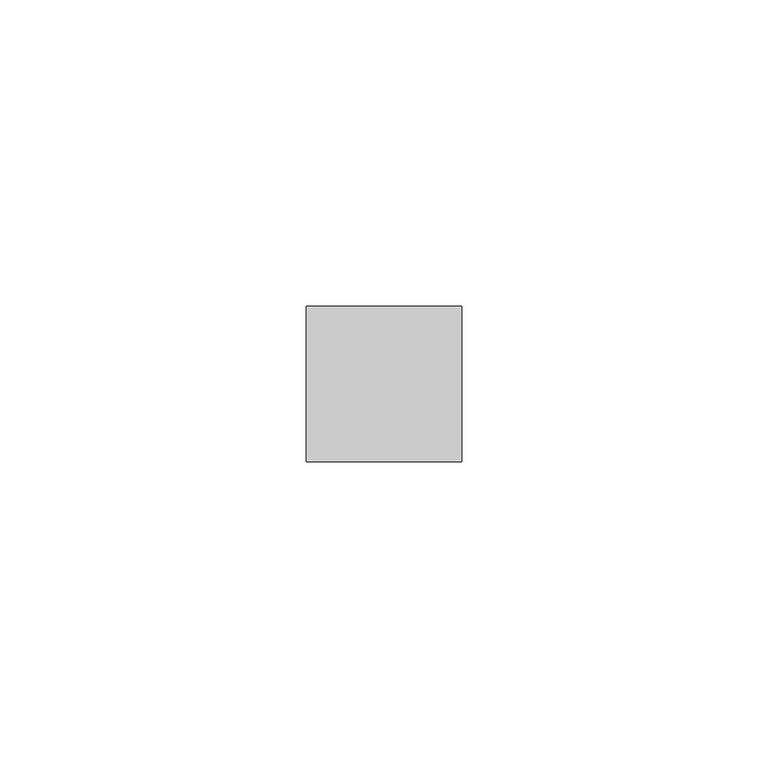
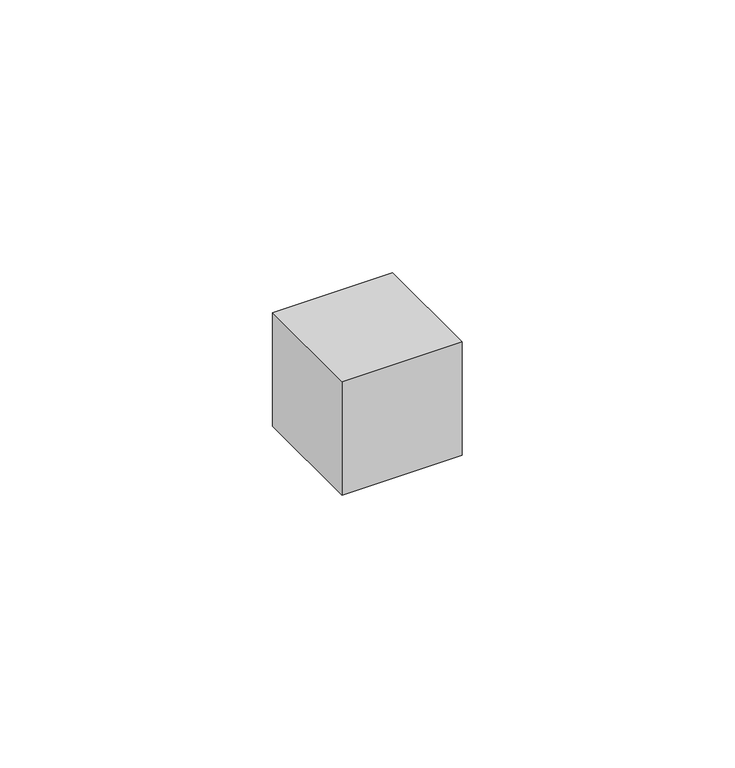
"""IFC4 building model written with IfcOpenShell, lengths in millimetres: proxy geometry, INDDoNotDelete : INDMetadata."""

import ifcopenshell
import ifcopenshell.guid

model = None  # the IFC model being written
_history = None  # IfcOwnerHistory: only IFC2X3 demands one
_inside = {}  # id of a spatial element -> (the spatial element, [elements in it])
_under = {}  # id of a project, library or spatial element -> (it, [spatial elements below it])
_declared = {}  # id of a project -> (the project, [libraries it declares])
_typed = {}  # id of a type object -> (the type object, [elements of that type])
_made_of = {}  # id of a material, layer set ... -> (it, [elements and type objects made of it])


def new_model(schema):
    """Start an empty IFC model of exactly this schema.

    Asked for "IFC4X3", IfcOpenShell would pick the latest addendum, in which some entities
    have other attributes; the version numbers below select the first issue.
    IFC2X3 requires an IfcOwnerHistory on every rooted entity: one is made here for all.
    """
    global model, _history
    if schema == "IFC4X3":
        model = ifcopenshell.file(schema_version=(4, 3, 0, 0))
    else:
        model = ifcopenshell.file(schema=schema)
    _inside.clear()
    _under.clear()
    _declared.clear()
    _typed.clear()
    _made_of.clear()
    _history = None
    if model.schema == "IFC2X3":
        org = make("IfcOrganization", Name="unknown")
        user = make(
            "IfcPersonAndOrganization",
            ThePerson=make("IfcPerson", FamilyName="unknown"),
            TheOrganization=org,
        )
        app = make(
            "IfcApplication",
            ApplicationDeveloper=org,
            Version="unknown",
            ApplicationFullName="unknown",
            ApplicationIdentifier="unknown",
        )
        _history = make(
            "IfcOwnerHistory",
            OwningUser=user,
            OwningApplication=app,
            ChangeAction="ADDED",
            CreationDate=0,
        )
    return model


def make(cls, **values):
    """One entity of the class cls with the attributes given. An attribute that is None is left unset."""
    return model.create_entity(
        cls, **{name: value for name, value in values.items() if value is not None}
    )


def rooted(cls, **values):
    """An entity with a GlobalId (a new one), such as an element, a storey or a relation."""
    return make(cls, GlobalId=ifcopenshell.guid.new(), OwnerHistory=_history, **values)


def si_unit(unit_type, name, prefix=None):
    """IfcSIUnit, for example si_unit("LENGTHUNIT", "METRE", prefix="MILLI")."""
    return make("IfcSIUnit", UnitType=unit_type, Prefix=prefix, Name=name)


def assignment(units):
    """IfcUnitAssignment: the units of a project."""
    return None if units is None else make("IfcUnitAssignment", Units=units)


def point(xyz):
    """IfcCartesianPoint."""
    return None if xyz is None else make("IfcCartesianPoint", Coordinates=xyz)


def direction(xyz):
    """IfcDirection."""
    return None if xyz is None else make("IfcDirection", DirectionRatios=xyz)


def frame(location, z_axis=None, x_axis=None):
    """IfcAxis2Placement3D, a coordinate frame: its origin and axes. An axis left out is left unset."""
    return make(
        "IfcAxis2Placement3D",
        Location=point(location),
        Axis=direction(z_axis),
        RefDirection=direction(x_axis),
    )


def origin():
    """The frame at (0, 0, 0) with its axes left unset."""
    return frame((0.0, 0.0, 0.0))


def origin_with_axes():
    """The frame at (0, 0, 0) with the z axis (0, 0, 1) and the x axis (1, 0, 0) written out."""
    return frame((0.0, 0.0, 0.0), z_axis=(0.0, 0.0, 1.0), x_axis=(1.0, 0.0, 0.0))


def place(relative_to, where):
    """IfcLocalPlacement: puts the frame where relative to a parent placement (None: the world)."""
    return make(
        "IfcLocalPlacement", PlacementRelTo=relative_to, RelativePlacement=where
    )


def context(
    kind, dimensions, precision=None, world=None, true_north=None, identifier=None
):
    """IfcGeometricRepresentationContext, for example the 3D "Model" context."""
    return make(
        "IfcGeometricRepresentationContext",
        ContextIdentifier=identifier,
        ContextType=kind,
        CoordinateSpaceDimension=dimensions,
        Precision=precision,
        WorldCoordinateSystem=world,
        TrueNorth=true_north,
    )


def project(units=None, contexts=None):
    """IfcProject with its units and contexts."""
    return rooted(
        "IfcProject",
        Name="project",
        RepresentationContexts=contexts,
        UnitsInContext=assignment(units),
    )


def spatial(cls, under=None, at=None, **own):
    """A site, building, storey or space (cls), placed at a placement, below another one or the project."""
    s = rooted(cls, ObjectPlacement=at, **own)
    if under is not None:
        _under.setdefault(under.id(), (under, []))[1].append(s)
    return s


def polyline(points):
    """IfcPolyline through the points."""
    return make("IfcPolyline", Points=[point(p) for p in points])


def outline(outer, holes=None, kind="AREA"):
    """IfcArbitraryClosedProfileDef: a profile drawn as a closed curve; with holes, ...WithVoids."""
    if holes is None:
        return make("IfcArbitraryClosedProfileDef", ProfileType=kind, OuterCurve=outer)
    return make(
        "IfcArbitraryProfileDefWithVoids",
        ProfileType=kind,
        OuterCurve=outer,
        InnerCurves=holes,
    )


def extrude(swept, where, along, depth):
    """IfcExtrudedAreaSolid: the profile swept, set in the frame where, extruded along a direction by depth."""
    return make(
        "IfcExtrudedAreaSolid",
        SweptArea=swept,
        Position=where,
        ExtrudedDirection=direction(along),
        Depth=depth,
    )


def shape(context_of_items, identifier, shape_type, items):
    """IfcShapeRepresentation: the items that make up one representation, for example the "Body"."""
    return make(
        "IfcShapeRepresentation",
        ContextOfItems=context_of_items,
        RepresentationIdentifier=identifier,
        RepresentationType=shape_type,
        Items=items,
    )


def source(mapping_origin, context_of_items, identifier, shape_type, items):
    """IfcRepresentationMap: a shape defined once, which mapped items show again and again."""
    return make(
        "IfcRepresentationMap",
        MappingOrigin=mapping_origin,
        MappedRepresentation=shape(context_of_items, identifier, shape_type, items),
    )


def transform(
    local_origin,
    x_axis=None,
    y_axis=None,
    z_axis=None,
    scale=None,
    scale2=None,
    scale3=None,
    uniform=True,
):
    """IfcCartesianTransformationOperator3D, or its non-uniform kind. x_axis, y_axis, z_axis: its Axis1, 2, 3."""
    if uniform:
        return make(
            "IfcCartesianTransformationOperator3D",
            Axis1=direction(x_axis),
            Axis2=direction(y_axis),
            LocalOrigin=point(local_origin),
            Scale=scale,
            Axis3=direction(z_axis),
        )
    return make(
        "IfcCartesianTransformationOperator3DnonUniform",
        Axis1=direction(x_axis),
        Axis2=direction(y_axis),
        LocalOrigin=point(local_origin),
        Scale=scale,
        Axis3=direction(z_axis),
        Scale2=scale2,
        Scale3=scale3,
    )


def mapped(mapping_source, mapping_target):
    """IfcMappedItem: shows the shape of a source again, moved by a transform."""
    return make(
        "IfcMappedItem", MappingSource=mapping_source, MappingTarget=mapping_target
    )


def made_of(thing, what):
    """Note that an element or type object is made of a material, layer set ...; save() writes the relation."""
    if what is not None:
        _made_of.setdefault(what.id(), (what, []))[1].append(thing)
    return thing


def element(
    cls,
    number,
    at=None,
    inside=None,
    cuts=None,
    type_object=None,
    material=None,
    context=None,
    identifier="Body",
    shape_type=None,
    held_by="IfcProductDefinitionShape",
    body=None,
    shapes=None,
    **own,
):
    """One element of the class cls, such as IfcWall. Its Tag is "e" and its number.

    at: its placement. inside: the storey or other place that contains it. cuts: it is an
    opening in that element (IfcRelVoidsElement). A single representation is given by context,
    identifier, shape_type and body (its items); several are given by shapes. held_by: the class
    of the entity that holds the representations. save() writes the other relations.
    """
    e = rooted(cls, Tag="e%d" % number, ObjectPlacement=at, **own)
    if body is not None:
        shapes = [shape(context, identifier, shape_type, body)]
    if shapes is not None:
        e.Representation = make(held_by, Representations=shapes)
    if inside is not None:
        _inside.setdefault(inside.id(), (inside, []))[1].append(e)
    if cuts is not None:
        rooted(
            "IfcRelVoidsElement", RelatingBuildingElement=cuts, RelatedOpeningElement=e
        )
    if type_object is not None:
        _typed.setdefault(type_object.id(), (type_object, []))[1].append(e)
    return made_of(e, material)


def aggregate(whole, parts):
    """IfcRelAggregates: a whole, such as a stair, and the parts it consists of."""
    return rooted("IfcRelAggregates", RelatingObject=whole, RelatedObjects=parts)


def save(model, path):
    """Write the relations noted so far, then the file.

    IfcRelAggregates (storeys below a building ...), IfcRelContainedInSpatialStructure (elements
    in a storey), IfcRelDefinesByType, IfcRelAssociatesMaterial and IfcRelDeclares: one each for
    every whole, place, type object, material and project.
    """
    for whole, parts in _under.values():
        aggregate(whole, parts)
    for where, things in _inside.values():
        rooted(
            "IfcRelContainedInSpatialStructure",
            RelatedElements=things,
            RelatingStructure=where,
        )
    for kind, things in _typed.values():
        rooted("IfcRelDefinesByType", RelatedObjects=things, RelatingType=kind)
    for what, things in _made_of.values():
        rooted("IfcRelAssociatesMaterial", RelatedObjects=things, RelatingMaterial=what)
    for by, libraries in _declared.values():
        rooted("IfcRelDeclares", RelatingContext=by, RelatedDefinitions=libraries)
    model.write(path)


def generic_models_533882bd(model_context):
    return source(origin(), model_context, "Body", "SweptSolid", [
        extrude(outline(polyline([(25.4, 0.0), (25.4, -25.4), (0.0, -25.4), (0.0, 0.0), (25.4, 0.0)])), origin_with_axes(), (0.0, 0.0, 1.0), 25.4),
    ])


if __name__ == "__main__":
    model = new_model("IFC4")
    model_context = context("Model", 3, world=origin())
    ifc_project = project(units=[si_unit("LENGTHUNIT", "METRE", prefix="MILLI")], contexts=[model_context])
    site = spatial("IfcSite", under=ifc_project)
    building = spatial("IfcBuilding", under=site)
    placement = place(None, origin())
    generic_models_shape = generic_models_533882bd(model_context)
    element("IfcBuildingElementProxy", 1, Name="INDDoNotDelete : INDMetadata", ObjectType="INDDoNotDelete : INDMetadata", at=placement, inside=building, context=model_context, shape_type="MappedRepresentation", body=[
        mapped(generic_models_shape, transform((0.0, 0.0, 0.0), x_axis=(1.0, 0.0, 0.0), y_axis=(0.0, 1.0, 0.0), z_axis=(0.0, 0.0, 1.0))),
    ])
    save(model, "model.ifc")
